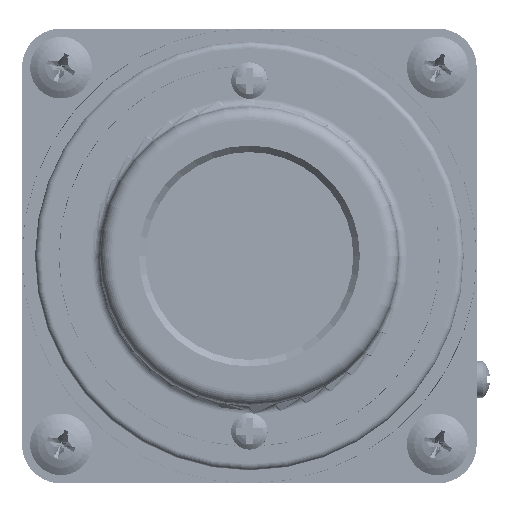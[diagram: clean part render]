
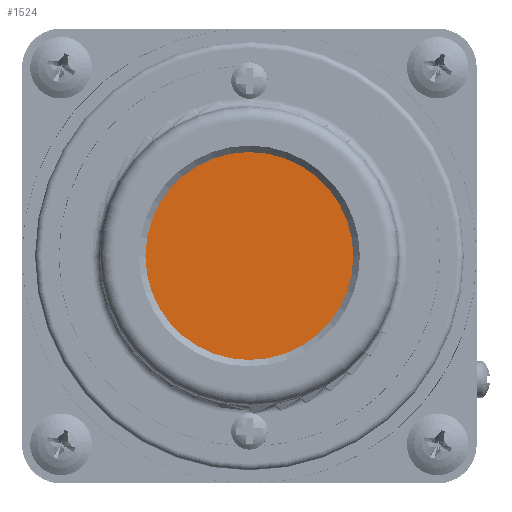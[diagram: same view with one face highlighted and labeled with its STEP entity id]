
A CAD part, left-side view. The second image highlights one B-rep face of the part: STEP entity #1524.
In plain terms, the highlighted planar face has unit normal (-1, 0, 0).
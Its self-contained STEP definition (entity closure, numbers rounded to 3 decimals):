
#989=FACE_OUTER_BOUND('',#2423,.T.);
#1190=PLANE('',#6039);
#1524=ADVANCED_FACE('',(#989),#1190,.T.);
#2423=EDGE_LOOP('',(#3451));
#3451=ORIENTED_EDGE('',*,*,#5078,.F.);
#4424=VERTEX_POINT('',#54380);
#5078=EDGE_CURVE('',#4424,#4424,#5581,.T.);
#5581=CIRCLE('',#6038,16.);
#6038=AXIS2_PLACEMENT_3D('',#54379,#6957,#6958);
#6039=AXIS2_PLACEMENT_3D('',#54381,#6959,#6960);
#6957=DIRECTION('',(1.,0.,0.));
#6958=DIRECTION('',(0.,0.,-1.));
#6959=DIRECTION('',(-1.,0.,0.));
#6960=DIRECTION('',(0.,0.,-1.));
#54379=CARTESIAN_POINT('',(-90.,0.,0.));
#54380=CARTESIAN_POINT('',(-90.,0.,-16.));
#54381=CARTESIAN_POINT('',(-90.,0.,0.));
